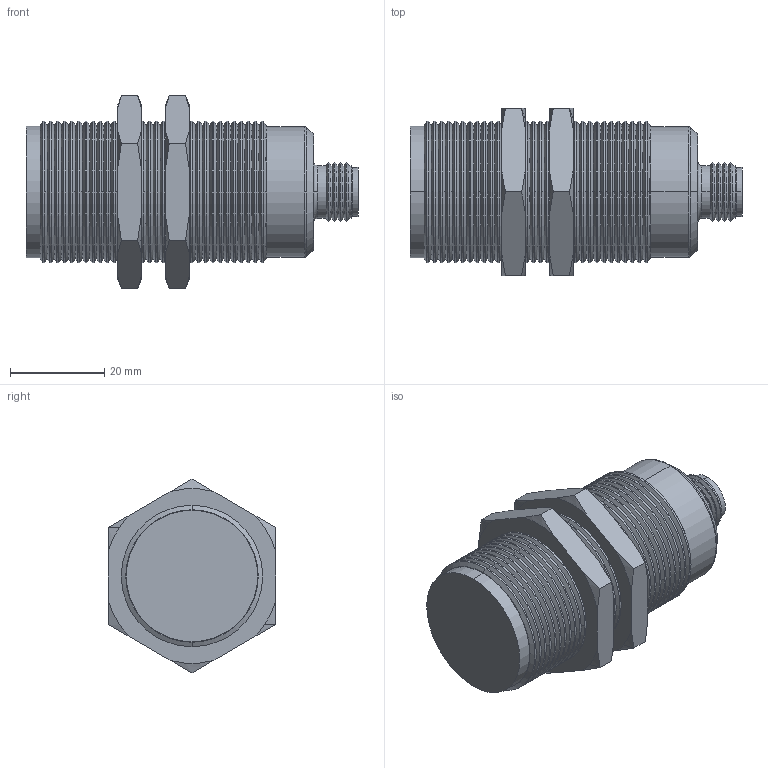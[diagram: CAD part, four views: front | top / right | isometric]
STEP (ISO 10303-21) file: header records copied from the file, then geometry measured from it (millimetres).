
FILE_DESCRIPTION (( 'STEP AP203' ), '1' );
FILE_NAME ('90-XXXX-056.STEP', '2015-08-31T03:44:47', ( 'Sam' ), ( 'Spade' ), 'SwSTEP 2.0', 'SolidWorks 2002296', '' );
FILE_SCHEMA (( 'CONFIG_CONTROL_DESIGN' ));
Length unit declared in the file: inch
Products named in the file (9): 90-XXXX-056; Imported336; Imported335; Imported332; Imported331; Imported330; Imported334; Imported333; Imported329
Assembly tree (8 placements, depth 2):
  90-XXXX-056
    Imported330
    Imported335
    Imported336
    Imported331
    Imported332
    Imported329
    Imported334
    Imported333
Bounding box: 70.51 x 35.64 x 41.15 mm (x, y, z)
Volume: 45132.7 mm3; surface area: 17291.8 mm2
Topology: 8 solids, 8 shells, 370 faces, 861 edges, 509 vertices
Faces by surface type: cone 180, cylinder 109, bspline 44, plane 37
Entity records: 12168 total; most frequent: CARTESIAN_POINT 2753, DIRECTION 1927, ORIENTED_EDGE 1710, EDGE_CURVE 855, AXIS2_PLACEMENT_3D 795, VERTEX_POINT 509, CIRCLE 458, EDGE_LOOP 382
